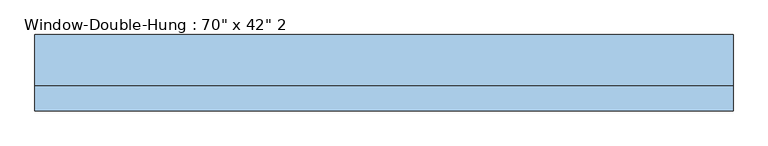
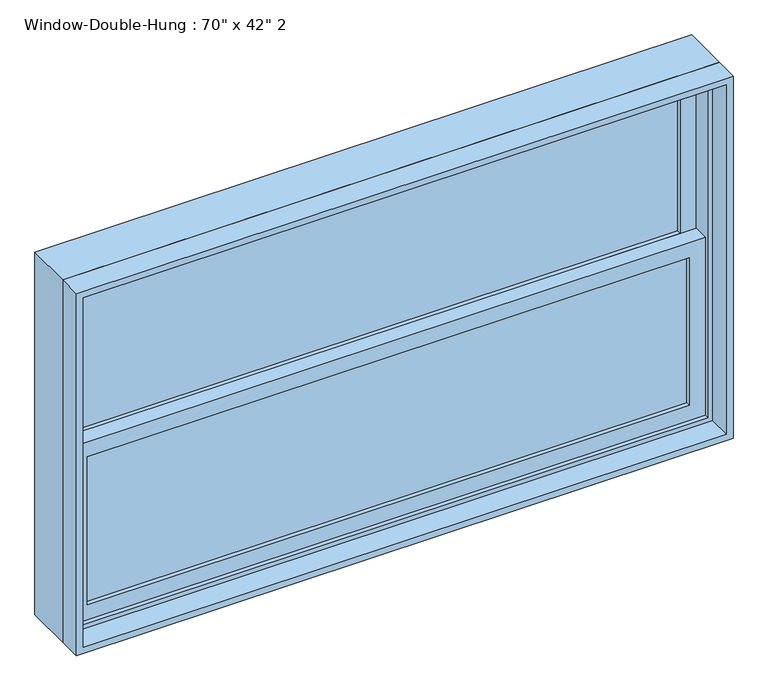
"""IFC4 building model written with IfcOpenShell, lengths in millimetres: window geometry."""

import ifcopenshell
import ifcopenshell.guid

model = None  # the IFC model being written
_history = None  # IfcOwnerHistory: only IFC2X3 demands one
_inside = {}  # id of a spatial element -> (the spatial element, [elements in it])
_under = {}  # id of a project, library or spatial element -> (it, [spatial elements below it])
_declared = {}  # id of a project -> (the project, [libraries it declares])
_typed = {}  # id of a type object -> (the type object, [elements of that type])
_made_of = {}  # id of a material, layer set ... -> (it, [elements and type objects made of it])


def new_model(schema):
    """Start an empty IFC model of exactly this schema.

    Asked for "IFC4X3", IfcOpenShell would pick the latest addendum, in which some entities
    have other attributes; the version numbers below select the first issue.
    IFC2X3 requires an IfcOwnerHistory on every rooted entity: one is made here for all.
    """
    global model, _history
    if schema == "IFC4X3":
        model = ifcopenshell.file(schema_version=(4, 3, 0, 0))
    else:
        model = ifcopenshell.file(schema=schema)
    _inside.clear()
    _under.clear()
    _declared.clear()
    _typed.clear()
    _made_of.clear()
    _history = None
    if model.schema == "IFC2X3":
        org = make("IfcOrganization", Name="unknown")
        user = make(
            "IfcPersonAndOrganization",
            ThePerson=make("IfcPerson", FamilyName="unknown"),
            TheOrganization=org,
        )
        app = make(
            "IfcApplication",
            ApplicationDeveloper=org,
            Version="unknown",
            ApplicationFullName="unknown",
            ApplicationIdentifier="unknown",
        )
        _history = make(
            "IfcOwnerHistory",
            OwningUser=user,
            OwningApplication=app,
            ChangeAction="ADDED",
            CreationDate=0,
        )
    return model


def make(cls, **values):
    """One entity of the class cls with the attributes given. An attribute that is None is left unset."""
    return model.create_entity(
        cls, **{name: value for name, value in values.items() if value is not None}
    )


def rooted(cls, **values):
    """An entity with a GlobalId (a new one), such as an element, a storey or a relation."""
    return make(cls, GlobalId=ifcopenshell.guid.new(), OwnerHistory=_history, **values)


def si_unit(unit_type, name, prefix=None):
    """IfcSIUnit, for example si_unit("LENGTHUNIT", "METRE", prefix="MILLI")."""
    return make("IfcSIUnit", UnitType=unit_type, Prefix=prefix, Name=name)


def assignment(units):
    """IfcUnitAssignment: the units of a project."""
    return None if units is None else make("IfcUnitAssignment", Units=units)


def point(xyz):
    """IfcCartesianPoint."""
    return None if xyz is None else make("IfcCartesianPoint", Coordinates=xyz)


def direction(xyz):
    """IfcDirection."""
    return None if xyz is None else make("IfcDirection", DirectionRatios=xyz)


def frame(location, z_axis=None, x_axis=None):
    """IfcAxis2Placement3D, a coordinate frame: its origin and axes. An axis left out is left unset."""
    return make(
        "IfcAxis2Placement3D",
        Location=point(location),
        Axis=direction(z_axis),
        RefDirection=direction(x_axis),
    )


def origin():
    """The frame at (0, 0, 0) with its axes left unset."""
    return frame((0.0, 0.0, 0.0))


def place(relative_to, where):
    """IfcLocalPlacement: puts the frame where relative to a parent placement (None: the world)."""
    return make(
        "IfcLocalPlacement", PlacementRelTo=relative_to, RelativePlacement=where
    )


def context(
    kind, dimensions, precision=None, world=None, true_north=None, identifier=None
):
    """IfcGeometricRepresentationContext, for example the 3D "Model" context."""
    return make(
        "IfcGeometricRepresentationContext",
        ContextIdentifier=identifier,
        ContextType=kind,
        CoordinateSpaceDimension=dimensions,
        Precision=precision,
        WorldCoordinateSystem=world,
        TrueNorth=true_north,
    )


def project(units=None, contexts=None):
    """IfcProject with its units and contexts."""
    return rooted(
        "IfcProject",
        Name="project",
        RepresentationContexts=contexts,
        UnitsInContext=assignment(units),
    )


def spatial(cls, under=None, at=None, **own):
    """A site, building, storey or space (cls), placed at a placement, below another one or the project."""
    s = rooted(cls, ObjectPlacement=at, **own)
    if under is not None:
        _under.setdefault(under.id(), (under, []))[1].append(s)
    return s


def polyline(points):
    """IfcPolyline through the points."""
    return make("IfcPolyline", Points=[point(p) for p in points])


def outline(outer, holes=None, kind="AREA"):
    """IfcArbitraryClosedProfileDef: a profile drawn as a closed curve; with holes, ...WithVoids."""
    if holes is None:
        return make("IfcArbitraryClosedProfileDef", ProfileType=kind, OuterCurve=outer)
    return make(
        "IfcArbitraryProfileDefWithVoids",
        ProfileType=kind,
        OuterCurve=outer,
        InnerCurves=holes,
    )


def extrude(swept, where, along, depth):
    """IfcExtrudedAreaSolid: the profile swept, set in the frame where, extruded along a direction by depth."""
    return make(
        "IfcExtrudedAreaSolid",
        SweptArea=swept,
        Position=where,
        ExtrudedDirection=direction(along),
        Depth=depth,
    )


def shape(context_of_items, identifier, shape_type, items):
    """IfcShapeRepresentation: the items that make up one representation, for example the "Body"."""
    return make(
        "IfcShapeRepresentation",
        ContextOfItems=context_of_items,
        RepresentationIdentifier=identifier,
        RepresentationType=shape_type,
        Items=items,
    )


def source(mapping_origin, context_of_items, identifier, shape_type, items):
    """IfcRepresentationMap: a shape defined once, which mapped items show again and again."""
    return make(
        "IfcRepresentationMap",
        MappingOrigin=mapping_origin,
        MappedRepresentation=shape(context_of_items, identifier, shape_type, items),
    )


def transform(
    local_origin,
    x_axis=None,
    y_axis=None,
    z_axis=None,
    scale=None,
    scale2=None,
    scale3=None,
    uniform=True,
):
    """IfcCartesianTransformationOperator3D, or its non-uniform kind. x_axis, y_axis, z_axis: its Axis1, 2, 3."""
    if uniform:
        return make(
            "IfcCartesianTransformationOperator3D",
            Axis1=direction(x_axis),
            Axis2=direction(y_axis),
            LocalOrigin=point(local_origin),
            Scale=scale,
            Axis3=direction(z_axis),
        )
    return make(
        "IfcCartesianTransformationOperator3DnonUniform",
        Axis1=direction(x_axis),
        Axis2=direction(y_axis),
        LocalOrigin=point(local_origin),
        Scale=scale,
        Axis3=direction(z_axis),
        Scale2=scale2,
        Scale3=scale3,
    )


def mapped(mapping_source, mapping_target):
    """IfcMappedItem: shows the shape of a source again, moved by a transform."""
    return make(
        "IfcMappedItem", MappingSource=mapping_source, MappingTarget=mapping_target
    )


def made_of(thing, what):
    """Note that an element or type object is made of a material, layer set ...; save() writes the relation."""
    if what is not None:
        _made_of.setdefault(what.id(), (what, []))[1].append(thing)
    return thing


def element(
    cls,
    number,
    at=None,
    inside=None,
    cuts=None,
    type_object=None,
    material=None,
    context=None,
    identifier="Body",
    shape_type=None,
    held_by="IfcProductDefinitionShape",
    body=None,
    shapes=None,
    **own,
):
    """One element of the class cls, such as IfcWall. Its Tag is "e" and its number.

    at: its placement. inside: the storey or other place that contains it. cuts: it is an
    opening in that element (IfcRelVoidsElement). A single representation is given by context,
    identifier, shape_type and body (its items); several are given by shapes. held_by: the class
    of the entity that holds the representations. save() writes the other relations.
    """
    e = rooted(cls, Tag="e%d" % number, ObjectPlacement=at, **own)
    if body is not None:
        shapes = [shape(context, identifier, shape_type, body)]
    if shapes is not None:
        e.Representation = make(held_by, Representations=shapes)
    if inside is not None:
        _inside.setdefault(inside.id(), (inside, []))[1].append(e)
    if cuts is not None:
        rooted(
            "IfcRelVoidsElement", RelatingBuildingElement=cuts, RelatedOpeningElement=e
        )
    if type_object is not None:
        _typed.setdefault(type_object.id(), (type_object, []))[1].append(e)
    return made_of(e, material)


def aggregate(whole, parts):
    """IfcRelAggregates: a whole, such as a stair, and the parts it consists of."""
    return rooted("IfcRelAggregates", RelatingObject=whole, RelatedObjects=parts)


def save(model, path):
    """Write the relations noted so far, then the file.

    IfcRelAggregates (storeys below a building ...), IfcRelContainedInSpatialStructure (elements
    in a storey), IfcRelDefinesByType, IfcRelAssociatesMaterial and IfcRelDeclares: one each for
    every whole, place, type object, material and project.
    """
    for whole, parts in _under.values():
        aggregate(whole, parts)
    for where, things in _inside.values():
        rooted(
            "IfcRelContainedInSpatialStructure",
            RelatedElements=things,
            RelatingStructure=where,
        )
    for kind, things in _typed.values():
        rooted("IfcRelDefinesByType", RelatedObjects=things, RelatingType=kind)
    for what, things in _made_of.values():
        rooted("IfcRelAssociatesMaterial", RelatedObjects=things, RelatingMaterial=what)
    for by, libraries in _declared.values():
        rooted("IfcRelDeclares", RelatingContext=by, RelatedDefinitions=libraries)
    model.write(path)


def window_64dbae8b(model_context):
    return source(origin(), model_context, "Body", "SweptSolid", [
        extrude(outline(polyline([(838.2, 20.6375), (838.2, 14.2875), (-838.2, 14.2875), (-838.2, 20.6375), (838.2, 20.6375)])), frame((0.0, 0.0, 990.6), z_axis=(0.0, 0.0, 1.0), x_axis=(1.0, 0.0, 0.0)), (0.0, 0.0, 1.0), 434.975),
        extrude(outline(polyline([(-838.2, 7.9375), (838.2, 7.9375), (838.2, 1.5875), (-838.2, 1.5875), (-838.2, 7.9375)])), frame((0.0, 0.0, 990.6), z_axis=(0.0, 0.0, 1.0), x_axis=(1.0, 0.0, 0.0)), (0.0, 0.0, 1.0), 434.975),
        extrude(outline(polyline([(838.2, 65.0875), (838.2, 58.7375), (-838.2, 58.7375), (-838.2, 65.0875), (838.2, 65.0875)])), frame((0.0, 0.0, 1470.025), z_axis=(0.0, 0.0, 1.0), x_axis=(1.0, 0.0, 0.0)), (0.0, 0.0, 1.0), 434.975),
        extrude(outline(polyline([(-838.2, 52.3875), (838.2, 52.3875), (838.2, 46.0375), (-838.2, 46.0375), (-838.2, 52.3875)])), frame((0.0, 0.0, 1470.025), z_axis=(0.0, 0.0, 1.0), x_axis=(1.0, 0.0, 0.0)), (0.0, 0.0, 1.0), 434.975),
        extrude(outline(polyline([(1470.025, -882.65), (946.15, -882.65), (946.15, 882.65), (1470.025, 882.65), (1470.025, -882.65)]), holes=[polyline([(1425.575, 838.2), (990.6, 838.2), (990.6, -838.2), (1425.575, -838.2), (1425.575, 838.2)])]), frame((0.0, -11.1125, 0.0), z_axis=(0.0, 1.0, 0.0), x_axis=(0.0, 0.0, 1.0)), (0.0, 0.0, 1.0), 44.45),
        extrude(outline(polyline([(1949.45, -882.65), (1425.575, -882.65), (1425.575, 882.65), (1949.45, 882.65), (1949.45, -882.65)]), holes=[polyline([(1905.0, 838.2), (1470.025, 838.2), (1470.025, -838.2), (1905.0, -838.2), (1905.0, 838.2)])]), frame((0.0, 33.3375, 0.0), z_axis=(0.0, 1.0, 0.0), x_axis=(0.0, 0.0, 1.0)), (0.0, 0.0, 1.0), 44.45),
        extrude(outline(polyline([(1981.2, -914.4), (914.4, -914.4), (914.4, 914.4), (1981.2, 914.4), (1981.2, -914.4)]), holes=[polyline([(1949.45, 882.65), (946.15, 882.65), (946.15, -882.65), (1949.45, -882.65), (1949.45, 882.65)])]), frame((0.0, -23.8125, 0.0), z_axis=(0.0, 1.0, 0.0), x_axis=(0.0, 0.0, 1.0)), (0.0, 0.0, 1.0), 133.35),
        extrude(outline(polyline([(1981.2, 914.4), (1981.2, -914.4), (914.4, -914.4), (914.4, 914.4), (1981.2, 914.4)]), holes=[polyline([(1962.15, 895.35), (933.45, 895.35), (933.45, -895.35), (1962.15, -895.35), (1962.15, 895.35)])]), frame((0.0, -90.4875, 0.0), z_axis=(0.0, 1.0, 0.0), x_axis=(0.0, 0.0, 1.0)), (0.0, 0.0, 1.0), 66.675),
    ])


if __name__ == "__main__":
    model = new_model("IFC4")
    model_context = context("Model", 3, world=origin())
    ifc_project = project(units=[si_unit("LENGTHUNIT", "METRE", prefix="MILLI")], contexts=[model_context])
    site = spatial("IfcSite", under=ifc_project)
    building = spatial("IfcBuilding", under=site)
    placement = place(None, origin())
    window_shape = window_64dbae8b(model_context)
    element("IfcWindow", 1, ObjectType="Window-Double-Hung : 70\" x 42\" 2", at=placement, inside=building, context=model_context, shape_type="MappedRepresentation", body=[
        mapped(window_shape, transform((0.0, 0.0, 0.0), x_axis=(1.0, 0.0, 0.0), y_axis=(0.0, 1.0, 0.0), z_axis=(0.0, 0.0, 1.0))),
    ])
    save(model, "model.ifc")
